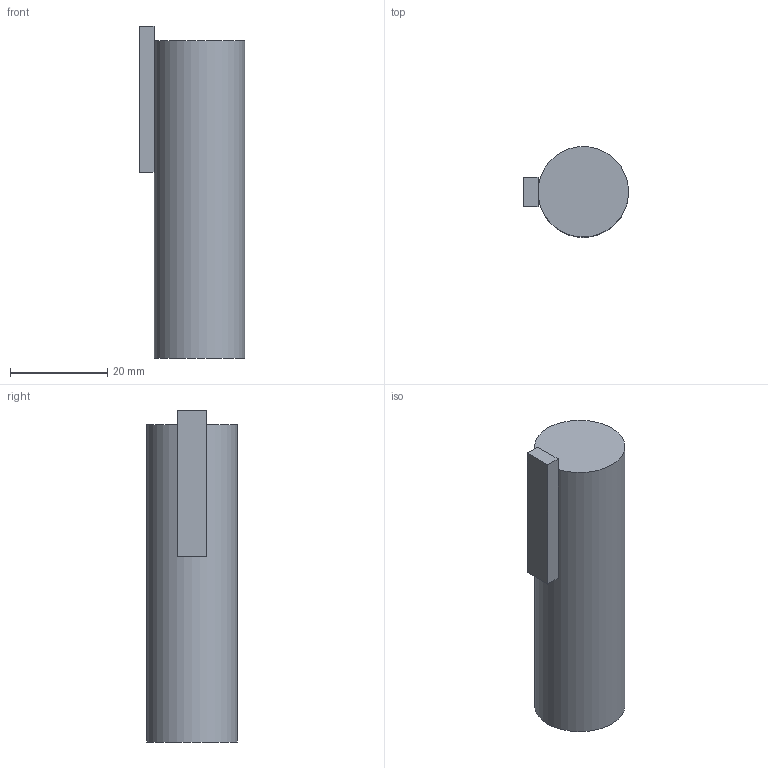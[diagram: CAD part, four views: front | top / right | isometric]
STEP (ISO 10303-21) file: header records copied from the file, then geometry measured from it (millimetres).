
FILE_DESCRIPTION(/* description */ (''),/* implementation_level */ '2;1');
FILE_NAME(/* name */ 'C:\Users\uhlma\OneDrive\Flaura\Produktentwicklung\Gehaeuse\CAD-Konstruktion\Prototyp 9\Thingiverse_Upload\Inventor\Dummy_LiPo_Battery_18650.stp',/* time_stamp */ '2021-07-25T11:45:21+02:00',/* author */ ('uhlma'),/* organization */ (''),/* preprocessor_version */ 'ST-DEVELOPER v18',/* originating_system */ 'Autodesk Inventor 2020',/* authorisation */ '');
FILE_SCHEMA (('AUTOMOTIVE_DESIGN { 1 0 10303 214 3 1 1 }'));
Length unit declared in the file: millimetre
Products named in the file (1): LiPo_Akku_18650_Dummy
Bounding box: 21.6 x 18.6 x 68.2 mm (x, y, z)
Volume: 18255.9 mm3; surface area: 4929.3 mm2
Topology: 2 solids, 2 shells, 9 faces, 18 edges, 13 vertices
Faces by surface type: plane 8, cylinder 1
Full cylindrical faces by diameter (mm): 18.6 x1
Entity records: 288 total; most frequent: CARTESIAN_POINT 43, DIRECTION 42, ORIENTED_EDGE 38, EDGE_CURVE 19, LINE 16, VECTOR 16, VERTEX_POINT 14, AXIS2_PLACEMENT_3D 13
